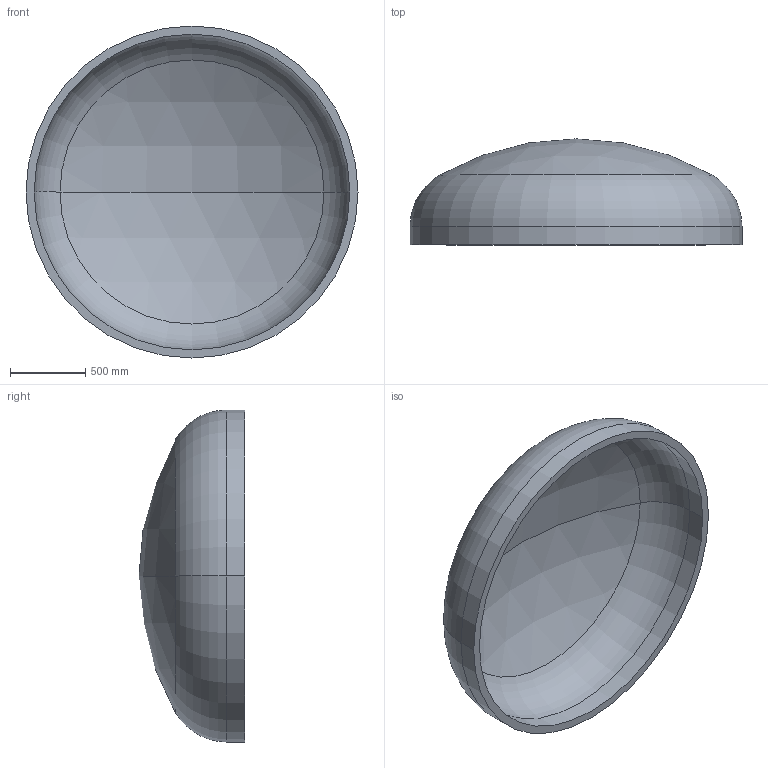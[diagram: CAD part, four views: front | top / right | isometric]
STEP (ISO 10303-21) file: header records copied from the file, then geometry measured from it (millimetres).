
FILE_DESCRIPTION (( 'STEP AP203' ), '1' );
FILE_NAME ('DIN 28013 Korbbogenform_-_Boden DIN 28013 - 2200 x 120 - I - s=54.step', '2016-07-01T14:41:45', ( '' ), ( '' ), 'SwSTEP 2.0', 'SolidWorks 2013', '' );
FILE_SCHEMA (( 'CONFIG_CONTROL_DESIGN' ));
Length unit declared in the file: millimetre
Products named in the file (1): DIN 28013 Korbbogenform_-_Boden DIN 28013 - 2200 x 120 - I - s=54
Bounding box: 2200 x 701.94 x 2200 mm (x, y, z)
Volume: 319170024.7 mm3; surface area: 12191275.9 mm2
Topology: 1 solids, 1 shells, 13 faces, 24 edges, 14 vertices
Faces by surface type: torus 4, cylinder 4, sphere 4, plane 1
Entity records: 407 total; most frequent: DIRECTION 72, CARTESIAN_POINT 52, ORIENTED_EDGE 48, AXIS2_PLACEMENT_3D 34, EDGE_CURVE 24, CIRCLE 20, VERTEX_POINT 14, EDGE_LOOP 14
